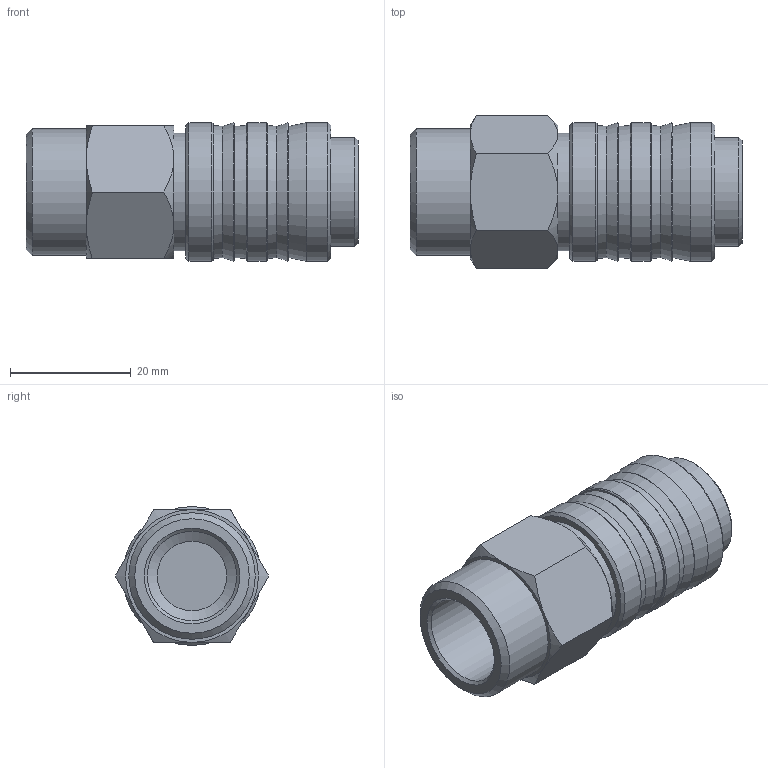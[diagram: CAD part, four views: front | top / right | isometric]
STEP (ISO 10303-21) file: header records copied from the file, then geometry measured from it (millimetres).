
FILE_DESCRIPTION(/* description */ (''),/* implementation_level */ '2;1');
FILE_NAME(/* name */ 'S:\_Tecnico\ArchivioUT\_Disegni3D ingombri\DISEGNI 3D per ingombri\GD\GD100012.stp',/* time_stamp */ '2020-11-19T09:03:13+01:00',/* author */ ('ufficiotecnico3'),/* organization */ (''),/* preprocessor_version */ 'ST-DEVELOPER v18',/* originating_system */ 'Autodesk Inventor 2020',/* authorisation */ '');
FILE_SCHEMA (('AUTOMOTIVE_DESIGN { 1 0 10303 214 3 1 1 }'));
Length unit declared in the file: millimetre
Products named in the file (1): GD100012
Bounding box: 55 x 25.4 x 23 mm (x, y, z)
Volume: 14709.8 mm3; surface area: 8864.3 mm2
Topology: 1 solids, 1 shells, 64 faces, 149 edges, 101 vertices
Faces by surface type: cone 30, plane 22, cylinder 12
Full cylindrical faces by diameter (mm): 10 x1, 11.5 x1, 12 x1, 14.8 x1, 18 x1, 18.4 x1, 19.5 x1, 19.9 x1, 20.955 x1, 23 x3
Entity records: 1899 total; most frequent: CARTESIAN_POINT 363, DIRECTION 344, ORIENTED_EDGE 298, AXIS2_PLACEMENT_3D 154, EDGE_CURVE 149, VERTEX_POINT 101, CIRCLE 89, EDGE_LOOP 78
